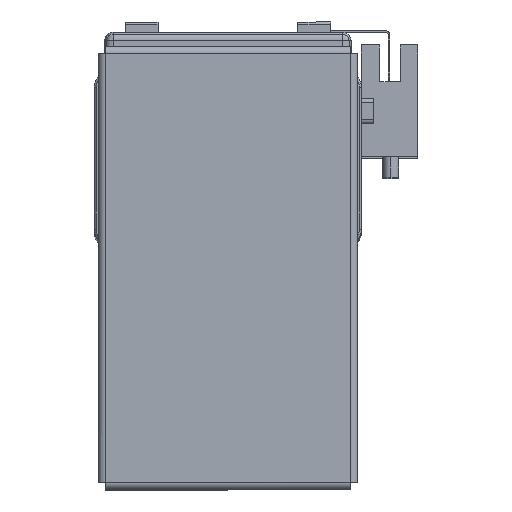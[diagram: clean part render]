
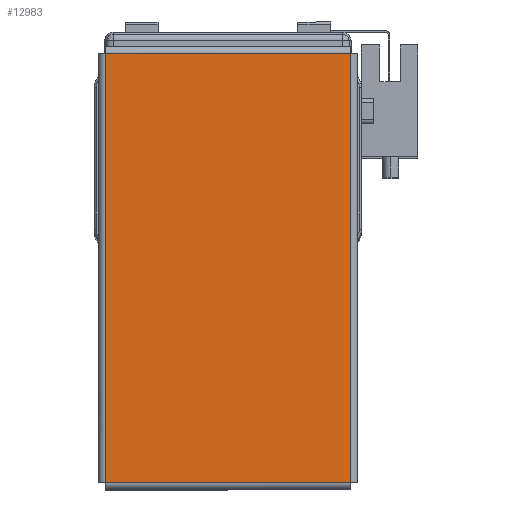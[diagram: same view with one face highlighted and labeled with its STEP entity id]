
A CAD part, top view. The second image highlights one B-rep face of the part: STEP entity #12983.
In plain terms, the highlighted planar face has unit normal (0, 0, 1) as drawn and (0, -1, 0) by its records, which use the part's own axes.
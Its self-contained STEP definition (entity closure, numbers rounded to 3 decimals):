
#3701 = DIRECTION ( 'NONE',  ( 0., 1., 0. ) ) ;
#3705 = DIRECTION ( 'NONE',  ( 0., 0., 1. ) ) ;
#3729 = PLANE ( 'NONE',  #29717 ) ;
#3730 = CARTESIAN_POINT ( 'NONE',  ( 0., -1., 0. ) ) ;
#12983 = ADVANCED_FACE ( 'NONE', ( #22193 ), #3729, .F. ) ;
#14036 = VERTEX_POINT ( 'NONE', #18502 ) ;
#14037 = VERTEX_POINT ( 'NONE', #18469 ) ;
#14061 = VERTEX_POINT ( 'NONE', #18495 ) ;
#14067 = VERTEX_POINT ( 'NONE', #18514 ) ;
#14436 = ORIENTED_EDGE ( 'NONE', *, *, #25960, .T. ) ;
#14463 = ORIENTED_EDGE ( 'NONE', *, *, #26109, .T. ) ;
#14472 = ORIENTED_EDGE ( 'NONE', *, *, #26061, .T. ) ;
#14517 = ORIENTED_EDGE ( 'NONE', *, *, #26108, .T. ) ;
#15327 = EDGE_LOOP ( 'NONE', ( #14517, #14463, #14472, #14436 ) ) ;
#17378 = CARTESIAN_POINT ( 'NONE',  ( 52.263, -1., -29.893 ) ) ;
#17384 = DIRECTION ( 'NONE',  ( 0., 0., 1. ) ) ;
#17541 = CARTESIAN_POINT ( 'NONE',  ( -52.293, -1., -29.863 ) ) ;
#17575 = DIRECTION ( 'NONE',  ( 1., 0., 0. ) ) ;
#17677 = DIRECTION ( 'NONE',  ( 0., 0., -1. ) ) ;
#17681 = CARTESIAN_POINT ( 'NONE',  ( -52.263, -1., 29.893 ) ) ;
#17686 = CARTESIAN_POINT ( 'NONE',  ( 52.293, -1., 29.863 ) ) ;
#17694 = DIRECTION ( 'NONE',  ( -1., 0., 0. ) ) ;
#18469 = CARTESIAN_POINT ( 'NONE',  ( 52.263, -1., -29.863 ) ) ;
#18495 = CARTESIAN_POINT ( 'NONE',  ( -52.263, -1., -29.863 ) ) ;
#18502 = CARTESIAN_POINT ( 'NONE',  ( 52.263, -1., 29.863 ) ) ;
#18514 = CARTESIAN_POINT ( 'NONE',  ( -52.263, -1., 29.863 ) ) ;
#22193 = FACE_OUTER_BOUND ( 'NONE', #15327, .T. ) ;
#23151 = LINE ( 'NONE', #17378, #23152 ) ;
#23152 = VECTOR ( 'NONE', #17384, 1000. ) ;
#23261 = LINE ( 'NONE', #17541, #23262 ) ;
#23262 = VECTOR ( 'NONE', #17575, 1000. ) ;
#23309 = LINE ( 'NONE', #17686, #23345 ) ;
#23314 = VECTOR ( 'NONE', #17677, 1000. ) ;
#23345 = VECTOR ( 'NONE', #17694, 1000. ) ;
#23350 = LINE ( 'NONE', #17681, #23314 ) ;
#25960 = EDGE_CURVE ( 'NONE', #14037, #14036, #23151, .T. ) ;
#26061 = EDGE_CURVE ( 'NONE', #14061, #14037, #23261, .T. ) ;
#26108 = EDGE_CURVE ( 'NONE', #14036, #14067, #23309, .T. ) ;
#26109 = EDGE_CURVE ( 'NONE', #14067, #14061, #23350, .T. ) ;
#29717 = AXIS2_PLACEMENT_3D ( 'NONE', #3730, #3701, #3705 ) ;
